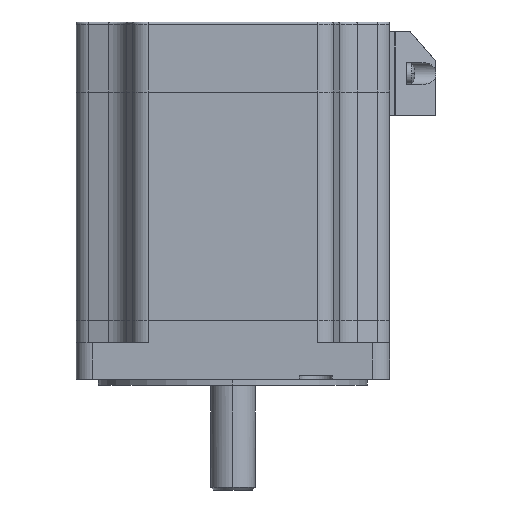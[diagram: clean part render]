
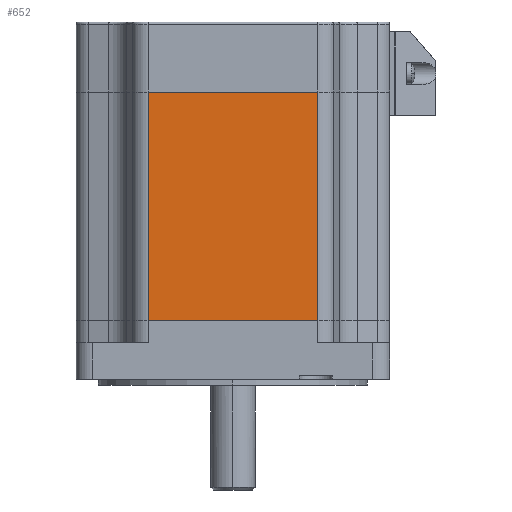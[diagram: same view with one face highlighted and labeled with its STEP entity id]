
A CAD part, left-side view. The second image highlights one B-rep face of the part: STEP entity #652.
In plain terms, the highlighted planar face has unit normal (-1, 0, 0).
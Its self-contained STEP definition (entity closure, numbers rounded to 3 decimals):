
#182 = PLANE ( 'NONE',  #1078 ) ;
#186 = CARTESIAN_POINT ( 'NONE',  ( -42.5, 23., 78. ) ) ;
#369 = DIRECTION ( 'NONE',  ( 0., 0., -1. ) ) ;
#422 = CARTESIAN_POINT ( 'NONE',  ( -42.5, 38., 78. ) ) ;
#652 = ADVANCED_FACE ( 'NONE', ( #6761 ), #182, .F. ) ;
#800 = VECTOR ( 'NONE', #369, 1000. ) ;
#1053 = CARTESIAN_POINT ( 'NONE',  ( -42.5, 38., 16. ) ) ;
#1078 = AXIS2_PLACEMENT_3D ( 'NONE', #3150, #8300, #3889 ) ;
#1301 = LINE ( 'NONE', #1053, #2311 ) ;
#1386 = EDGE_CURVE ( 'NONE', #6847, #6443, #6860, .T. ) ;
#1791 = DIRECTION ( 'NONE',  ( 0., 0., -1. ) ) ;
#2143 = EDGE_CURVE ( 'NONE', #6163, #6847, #6511, .T. ) ;
#2154 = ORIENTED_EDGE ( 'NONE', *, *, #5559, .F. ) ;
#2311 = VECTOR ( 'NONE', #2441, 1000. ) ;
#2441 = DIRECTION ( 'NONE',  ( 0., 1., 0. ) ) ;
#3150 = CARTESIAN_POINT ( 'NONE',  ( -42.5, 38., 10. ) ) ;
#3403 = CARTESIAN_POINT ( 'NONE',  ( -42.5, 23., 97. ) ) ;
#3652 = ORIENTED_EDGE ( 'NONE', *, *, #2143, .T. ) ;
#3889 = DIRECTION ( 'NONE',  ( 0., 0., -1. ) ) ;
#4379 = VECTOR ( 'NONE', #1791, 1000. ) ;
#4548 = VECTOR ( 'NONE', #9239, 1000. ) ;
#4595 = CARTESIAN_POINT ( 'NONE',  ( -42.5, -23., 16. ) ) ;
#4721 = CARTESIAN_POINT ( 'NONE',  ( -42.5, -23., 97. ) ) ;
#5559 = EDGE_CURVE ( 'NONE', #6163, #9485, #8288, .T. ) ;
#6163 = VERTEX_POINT ( 'NONE', #6711 ) ;
#6443 = VERTEX_POINT ( 'NONE', #9249 ) ;
#6490 = EDGE_LOOP ( 'NONE', ( #2154, #3652, #8626, #8873 ) ) ;
#6511 = LINE ( 'NONE', #422, #4548 ) ;
#6711 = CARTESIAN_POINT ( 'NONE',  ( -42.5, -23., 78. ) ) ;
#6761 = FACE_OUTER_BOUND ( 'NONE', #6490, .T. ) ;
#6847 = VERTEX_POINT ( 'NONE', #186 ) ;
#6860 = LINE ( 'NONE', #3403, #800 ) ;
#8274 = EDGE_CURVE ( 'NONE', #9485, #6443, #1301, .T. ) ;
#8288 = LINE ( 'NONE', #4721, #4379 ) ;
#8300 = DIRECTION ( 'NONE',  ( 1., 0., 0. ) ) ;
#8626 = ORIENTED_EDGE ( 'NONE', *, *, #1386, .T. ) ;
#8873 = ORIENTED_EDGE ( 'NONE', *, *, #8274, .F. ) ;
#9239 = DIRECTION ( 'NONE',  ( 0., 1., 0. ) ) ;
#9249 = CARTESIAN_POINT ( 'NONE',  ( -42.5, 23., 16. ) ) ;
#9485 = VERTEX_POINT ( 'NONE', #4595 ) ;
